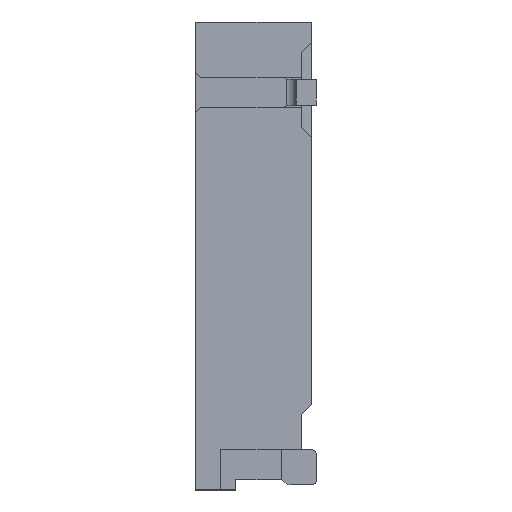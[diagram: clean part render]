
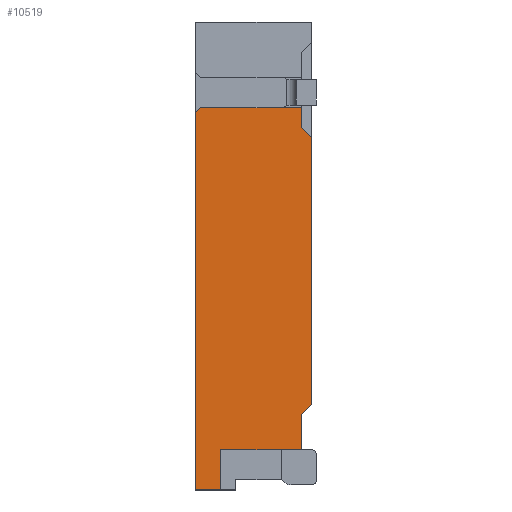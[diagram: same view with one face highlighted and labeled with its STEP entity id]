
A CAD part, left-side view. The second image highlights one B-rep face of the part: STEP entity #10519.
In plain terms, the highlighted planar face has unit normal (-1, 0, 0).
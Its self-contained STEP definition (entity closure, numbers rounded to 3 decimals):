
#94=DIRECTION('',(0.,0.,1.));
#95=VECTOR('',#94,2.65);
#96=CARTESIAN_POINT('',(0.285,0.05,-3.8));
#97=LINE('',#96,#95);
#217=DIRECTION('',(0.,0.,-1.));
#218=VECTOR('',#217,3.75);
#219=CARTESIAN_POINT('',(0.285,1.2,-0.9));
#220=LINE('',#219,#218);
#1071=DIRECTION('',(0.,0.,1.));
#1072=VECTOR('',#1071,0.35);
#1073=CARTESIAN_POINT('',(0.285,0.15,-4.25));
#1074=LINE('',#1073,#1072);
#1289=DIRECTION('',(0.,0.,1.));
#1290=VECTOR('',#1289,0.2);
#1291=CARTESIAN_POINT('',(0.285,0.15,-1.05));
#1292=LINE('',#1291,#1290);
#1293=DIRECTION('',(0.,-0.707,-0.707));
#1294=VECTOR('',#1293,0.141);
#1295=CARTESIAN_POINT('',(0.285,0.15,-1.05));
#1296=LINE('',#1295,#1294);
#1297=DIRECTION('',(0.,0.707,-0.707));
#1298=VECTOR('',#1297,0.141);
#1299=CARTESIAN_POINT('',(0.285,0.05,-3.8));
#1300=LINE('',#1299,#1298);
#1301=DIRECTION('',(0.,-0.707,0.707));
#1302=VECTOR('',#1301,0.071);
#1303=CARTESIAN_POINT('',(0.285,1.2,-0.9));
#1304=LINE('',#1303,#1302);
#1317=DIRECTION('',(0.,-1.,0.));
#1318=VECTOR('',#1317,0.8);
#1319=CARTESIAN_POINT('',(0.285,0.95,-4.25));
#1320=LINE('',#1319,#1318);
#1353=DIRECTION('',(0.,0.,1.));
#1354=VECTOR('',#1353,0.4);
#1355=CARTESIAN_POINT('',(0.285,0.95,-4.65));
#1356=LINE('',#1355,#1354);
#1361=DIRECTION('',(0.,-1.,0.));
#1362=VECTOR('',#1361,0.25);
#1363=CARTESIAN_POINT('',(0.285,1.2,-4.65));
#1364=LINE('',#1363,#1362);
#4095=DIRECTION('',(0.,1.,0.));
#4096=VECTOR('',#4095,1.);
#4097=CARTESIAN_POINT('',(0.285,0.15,-0.85));
#4098=LINE('',#4097,#4096);
#6837=CARTESIAN_POINT('',(0.285,1.2,-0.9));
#6838=VERTEX_POINT('',#6837);
#6839=CARTESIAN_POINT('',(0.285,1.15,-0.85));
#6840=VERTEX_POINT('',#6839);
#6841=CARTESIAN_POINT('',(0.285,0.15,-1.05));
#6842=CARTESIAN_POINT('',(0.285,0.05,-1.15));
#6843=VERTEX_POINT('',#6841);
#6844=VERTEX_POINT('',#6842);
#6845=CARTESIAN_POINT('',(0.285,0.05,-3.8));
#6846=VERTEX_POINT('',#6845);
#6847=CARTESIAN_POINT('',(0.285,0.15,-3.9));
#6848=VERTEX_POINT('',#6847);
#6849=CARTESIAN_POINT('',(0.285,0.15,-4.25));
#6850=VERTEX_POINT('',#6849);
#6851=CARTESIAN_POINT('',(0.285,0.95,-4.25));
#6852=VERTEX_POINT('',#6851);
#6853=CARTESIAN_POINT('',(0.285,0.95,-4.65));
#6854=VERTEX_POINT('',#6853);
#6855=CARTESIAN_POINT('',(0.285,1.2,-4.65));
#6856=VERTEX_POINT('',#6855);
#6857=CARTESIAN_POINT('',(0.285,0.15,-0.85));
#6858=VERTEX_POINT('',#6857);
#10496=CARTESIAN_POINT('',(0.285,0.625,-2.75));
#10497=DIRECTION('',(1.,0.,0.));
#10498=DIRECTION('',(0.,0.,1.));
#10499=AXIS2_PLACEMENT_3D('',#10496,#10497,#10498);
#10500=PLANE('',#10499);
#10501=ORIENTED_EDGE('',*,*,#10491,.T.);
#10502=ORIENTED_EDGE('',*,*,#8760,.F.);
#10503=ORIENTED_EDGE('',*,*,#10144,.T.);
#10504=ORIENTED_EDGE('',*,*,#10130,.F.);
#10506=ORIENTED_EDGE('',*,*,#10505,.F.);
#10508=ORIENTED_EDGE('',*,*,#10507,.F.);
#10510=ORIENTED_EDGE('',*,*,#10509,.F.);
#10511=ORIENTED_EDGE('',*,*,#9024,.F.);
#10513=ORIENTED_EDGE('',*,*,#10512,.T.);
#10515=ORIENTED_EDGE('',*,*,#10514,.F.);
#10516=ORIENTED_EDGE('',*,*,#10471,.F.);
#10517=EDGE_LOOP('',(#10501,#10502,#10503,#10504,#10506,#10508,#10510,#10511,
#10513,#10515,#10516));
#10518=FACE_OUTER_BOUND('',#10517,.F.);
#8760=EDGE_CURVE('',#6846,#6844,#97,.T.);
#9024=EDGE_CURVE('',#6838,#6856,#220,.T.);
#10130=EDGE_CURVE('',#6850,#6848,#1074,.T.);
#10144=EDGE_CURVE('',#6846,#6848,#1300,.T.);
#10471=EDGE_CURVE('',#6843,#6858,#1292,.T.);
#10491=EDGE_CURVE('',#6843,#6844,#1296,.T.);
#10505=EDGE_CURVE('',#6852,#6850,#1320,.T.);
#10507=EDGE_CURVE('',#6854,#6852,#1356,.T.);
#10509=EDGE_CURVE('',#6856,#6854,#1364,.T.);
#10512=EDGE_CURVE('',#6838,#6840,#1304,.T.);
#10514=EDGE_CURVE('',#6858,#6840,#4098,.T.);
#10519=ADVANCED_FACE('',(#10518),#10500,.F.);
